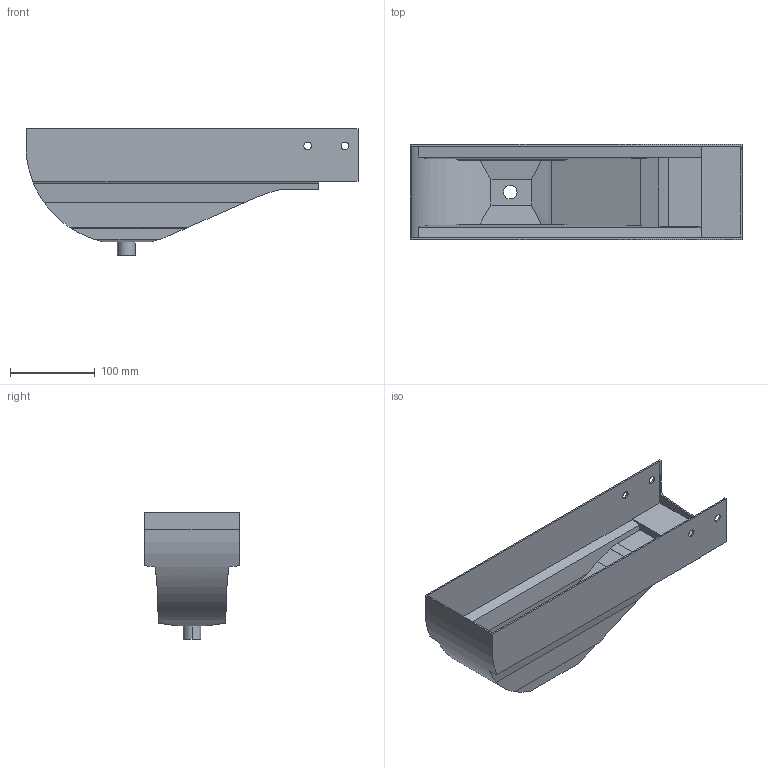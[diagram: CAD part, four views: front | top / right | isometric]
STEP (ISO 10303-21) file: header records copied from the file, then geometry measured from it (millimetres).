
FILE_DESCRIPTION (( 'STEP AP214' ), '1' );
FILE_NAME ('FSDD 107B.step', '2017-04-05T08:05:06', ( '' ), ( '' ), 'SwSTEP 2.0', 'SolidWorks 2015', '' );
FILE_SCHEMA (( 'AUTOMOTIVE_DESIGN' ));
Length unit declared in the file: millimetre
Products named in the file (1): FSDD 107B
Bounding box: 392.69 x 112.31 x 150.19 mm (x, y, z)
Volume: 264874.1 mm3; surface area: 261479.8 mm2
Topology: 1 solids, 1 shells, 73 faces, 209 edges, 139 vertices
Faces by surface type: plane 52, cylinder 21
Entity records: 2431 total; most frequent: CARTESIAN_POINT 506, ORIENTED_EDGE 418, DIRECTION 371, EDGE_CURVE 209, LINE 139, VECTOR 139, VERTEX_POINT 139, AXIS2_PLACEMENT_3D 116
